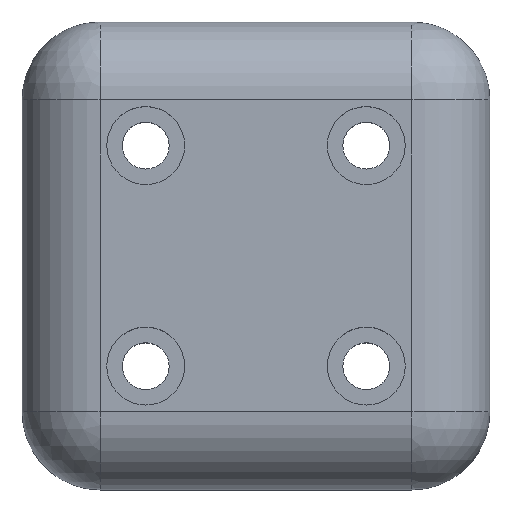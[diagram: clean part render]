
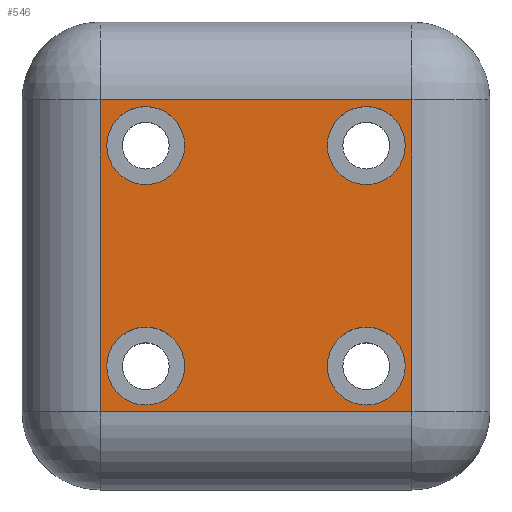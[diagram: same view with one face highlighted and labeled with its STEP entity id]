
A CAD part, top view. The second image highlights one B-rep face of the part: STEP entity #546.
In plain terms, the highlighted planar face has unit normal (0, 0, 1).
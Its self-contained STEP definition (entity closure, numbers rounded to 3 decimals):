
#11 = DIRECTION ( 'NONE',  ( 1., 0., 0. ) ) ;
#24 = CIRCLE ( 'NONE', #40, 2.5 ) ;
#25 = ORIENTED_EDGE ( 'NONE', *, *, #685, .T. ) ;
#32 = AXIS2_PLACEMENT_3D ( 'NONE', #230, #681, #1045 ) ;
#36 = DIRECTION ( 'NONE',  ( 1., 0., 0. ) ) ;
#40 = AXIS2_PLACEMENT_3D ( 'NONE', #998, #100, #11 ) ;
#43 = DIRECTION ( 'NONE',  ( 0., 1., 0. ) ) ;
#51 = VERTEX_POINT ( 'NONE', #992 ) ;
#64 = VERTEX_POINT ( 'NONE', #730 ) ;
#67 = EDGE_CURVE ( 'NONE', #585, #680, #24, .T. ) ;
#100 = DIRECTION ( 'NONE',  ( 0., 0., 1. ) ) ;
#101 = VECTOR ( 'NONE', #1060, 1000. ) ;
#118 = VERTEX_POINT ( 'NONE', #828 ) ;
#130 = DIRECTION ( 'NONE',  ( 0., 0., 1. ) ) ;
#136 = CARTESIAN_POINT ( 'NONE',  ( 10.429, 24.571, 10. ) ) ;
#137 = EDGE_CURVE ( 'NONE', #680, #585, #868, .T. ) ;
#141 = EDGE_LOOP ( 'NONE', ( #900, #775 ) ) ;
#146 = CARTESIAN_POINT ( 'NONE',  ( 7.929, 24.571, 10. ) ) ;
#169 = ORIENTED_EDGE ( 'NONE', *, *, #683, .T. ) ;
#209 = DIRECTION ( 'NONE',  ( 0., 0., 1. ) ) ;
#222 = AXIS2_PLACEMENT_3D ( 'NONE', #876, #977, #448 ) ;
#225 = EDGE_CURVE ( 'NONE', #514, #636, #634, .T. ) ;
#226 = VECTOR ( 'NONE', #43, 1000. ) ;
#230 = CARTESIAN_POINT ( 'NONE',  ( 10.429, 24.571, 10. ) ) ;
#238 = CARTESIAN_POINT ( 'NONE',  ( 24.571, 10.429, 10. ) ) ;
#247 = CARTESIAN_POINT ( 'NONE',  ( 7.5, 7.5, 10. ) ) ;
#249 = ORIENTED_EDGE ( 'NONE', *, *, #137, .F. ) ;
#250 = VERTEX_POINT ( 'NONE', #573 ) ;
#273 = DIRECTION ( 'NONE',  ( 0., 0., 1. ) ) ;
#274 = CIRCLE ( 'NONE', #32, 2.5 ) ;
#290 = CIRCLE ( 'NONE', #713, 2.5 ) ;
#325 = DIRECTION ( 'NONE',  ( 1., 0., 0. ) ) ;
#337 = EDGE_LOOP ( 'NONE', ( #493, #696 ) ) ;
#344 = CARTESIAN_POINT ( 'NONE',  ( 27.071, 24.571, 10. ) ) ;
#406 = DIRECTION ( 'NONE',  ( 0., 0., 1. ) ) ;
#410 = CARTESIAN_POINT ( 'NONE',  ( 12.929, 10.429, 10. ) ) ;
#424 = CARTESIAN_POINT ( 'NONE',  ( 2.5, 27.5, 10. ) ) ;
#430 = EDGE_LOOP ( 'NONE', ( #465, #1121 ) ) ;
#431 = VERTEX_POINT ( 'NONE', #956 ) ;
#437 = CARTESIAN_POINT ( 'NONE',  ( 7.5, 2.5, 10. ) ) ;
#441 = PLANE ( 'NONE',  #222 ) ;
#447 = FACE_OUTER_BOUND ( 'NONE', #622, .T. ) ;
#448 = DIRECTION ( 'NONE',  ( -1., 0., 0. ) ) ;
#465 = ORIENTED_EDGE ( 'NONE', *, *, #820, .F. ) ;
#473 = LINE ( 'NONE', #1016, #226 ) ;
#474 = VECTOR ( 'NONE', #991, 1000. ) ;
#490 = ORIENTED_EDGE ( 'NONE', *, *, #826, .T. ) ;
#493 = ORIENTED_EDGE ( 'NONE', *, *, #1103, .F. ) ;
#502 = EDGE_CURVE ( 'NONE', #823, #250, #513, .T. ) ;
#507 = DIRECTION ( 'NONE',  ( 1., 0., 0. ) ) ;
#509 = CARTESIAN_POINT ( 'NONE',  ( 12.929, 24.571, 10. ) ) ;
#513 = CIRCLE ( 'NONE', #627, 2.5 ) ;
#514 = VERTEX_POINT ( 'NONE', #146 ) ;
#525 = VECTOR ( 'NONE', #1089, 1000. ) ;
#542 = FACE_BOUND ( 'NONE', #337, .T. ) ;
#546 = ADVANCED_FACE ( 'NONE', ( #447, #542, #1106, #748, #1130 ), #441, .F. ) ;
#573 = CARTESIAN_POINT ( 'NONE',  ( 22.071, 24.571, 10. ) ) ;
#585 = VERTEX_POINT ( 'NONE', #1146 ) ;
#600 = DIRECTION ( 'NONE',  ( 1., 0., 0. ) ) ;
#603 = VERTEX_POINT ( 'NONE', #247 ) ;
#622 = EDGE_LOOP ( 'NONE', ( #25, #490, #677, #169 ) ) ;
#627 = AXIS2_PLACEMENT_3D ( 'NONE', #1129, #406, #325 ) ;
#634 = CIRCLE ( 'NONE', #1098, 2.5 ) ;
#636 = VERTEX_POINT ( 'NONE', #509 ) ;
#638 = EDGE_CURVE ( 'NONE', #51, #64, #290, .T. ) ;
#643 = CARTESIAN_POINT ( 'NONE',  ( 24.571, 10.429, 10. ) ) ;
#647 = CARTESIAN_POINT ( 'NONE',  ( 32.5, 7.5, 10. ) ) ;
#677 = ORIENTED_EDGE ( 'NONE', *, *, #1003, .T. ) ;
#680 = VERTEX_POINT ( 'NONE', #410 ) ;
#681 = DIRECTION ( 'NONE',  ( 0., 0., 1. ) ) ;
#683 = EDGE_CURVE ( 'NONE', #834, #431, #1078, .T. ) ;
#685 = EDGE_CURVE ( 'NONE', #431, #603, #1091, .T. ) ;
#696 = ORIENTED_EDGE ( 'NONE', *, *, #225, .F. ) ;
#706 = EDGE_LOOP ( 'NONE', ( #249, #1095 ) ) ;
#713 = AXIS2_PLACEMENT_3D ( 'NONE', #238, #1137, #600 ) ;
#730 = CARTESIAN_POINT ( 'NONE',  ( 27.071, 10.429, 10. ) ) ;
#748 = FACE_BOUND ( 'NONE', #430, .T. ) ;
#775 = ORIENTED_EDGE ( 'NONE', *, *, #1023, .F. ) ;
#820 = EDGE_CURVE ( 'NONE', #64, #51, #838, .T. ) ;
#823 = VERTEX_POINT ( 'NONE', #344 ) ;
#826 = EDGE_CURVE ( 'NONE', #603, #118, #853, .T. ) ;
#828 = CARTESIAN_POINT ( 'NONE',  ( 27.5, 7.5, 10. ) ) ;
#834 = VERTEX_POINT ( 'NONE', #1088 ) ;
#838 = CIRCLE ( 'NONE', #1105, 2.5 ) ;
#853 = LINE ( 'NONE', #647, #525 ) ;
#863 = CARTESIAN_POINT ( 'NONE',  ( 24.571, 24.571, 10. ) ) ;
#867 = DIRECTION ( 'NONE',  ( 0., 0., 1. ) ) ;
#868 = CIRCLE ( 'NONE', #932, 2.5 ) ;
#876 = CARTESIAN_POINT ( 'NONE',  ( 0., 0., 10. ) ) ;
#891 = CIRCLE ( 'NONE', #1090, 2.5 ) ;
#900 = ORIENTED_EDGE ( 'NONE', *, *, #502, .F. ) ;
#932 = AXIS2_PLACEMENT_3D ( 'NONE', #1101, #209, #36 ) ;
#956 = CARTESIAN_POINT ( 'NONE',  ( 7.5, 27.5, 10. ) ) ;
#977 = DIRECTION ( 'NONE',  ( 0., 0., -1. ) ) ;
#991 = DIRECTION ( 'NONE',  ( 0., -1., 0. ) ) ;
#992 = CARTESIAN_POINT ( 'NONE',  ( 22.071, 10.429, 10. ) ) ;
#998 = CARTESIAN_POINT ( 'NONE',  ( 10.429, 10.429, 10. ) ) ;
#1003 = EDGE_CURVE ( 'NONE', #118, #834, #473, .T. ) ;
#1016 = CARTESIAN_POINT ( 'NONE',  ( 27.5, 32.5, 10. ) ) ;
#1023 = EDGE_CURVE ( 'NONE', #250, #823, #891, .T. ) ;
#1045 = DIRECTION ( 'NONE',  ( 1., 0., 0. ) ) ;
#1060 = DIRECTION ( 'NONE',  ( -1., 0., 0. ) ) ;
#1078 = LINE ( 'NONE', #424, #101 ) ;
#1083 = DIRECTION ( 'NONE',  ( 1., 0., 0. ) ) ;
#1088 = CARTESIAN_POINT ( 'NONE',  ( 27.5, 27.5, 10. ) ) ;
#1089 = DIRECTION ( 'NONE',  ( 1., 0., 0. ) ) ;
#1090 = AXIS2_PLACEMENT_3D ( 'NONE', #863, #867, #507 ) ;
#1091 = LINE ( 'NONE', #437, #474 ) ;
#1095 = ORIENTED_EDGE ( 'NONE', *, *, #67, .F. ) ;
#1098 = AXIS2_PLACEMENT_3D ( 'NONE', #136, #130, #1109 ) ;
#1101 = CARTESIAN_POINT ( 'NONE',  ( 10.429, 10.429, 10. ) ) ;
#1103 = EDGE_CURVE ( 'NONE', #636, #514, #274, .T. ) ;
#1105 = AXIS2_PLACEMENT_3D ( 'NONE', #643, #273, #1083 ) ;
#1106 = FACE_BOUND ( 'NONE', #141, .T. ) ;
#1109 = DIRECTION ( 'NONE',  ( 1., 0., 0. ) ) ;
#1121 = ORIENTED_EDGE ( 'NONE', *, *, #638, .F. ) ;
#1129 = CARTESIAN_POINT ( 'NONE',  ( 24.571, 24.571, 10. ) ) ;
#1130 = FACE_BOUND ( 'NONE', #706, .T. ) ;
#1137 = DIRECTION ( 'NONE',  ( 0., 0., 1. ) ) ;
#1146 = CARTESIAN_POINT ( 'NONE',  ( 7.929, 10.429, 10. ) ) ;
